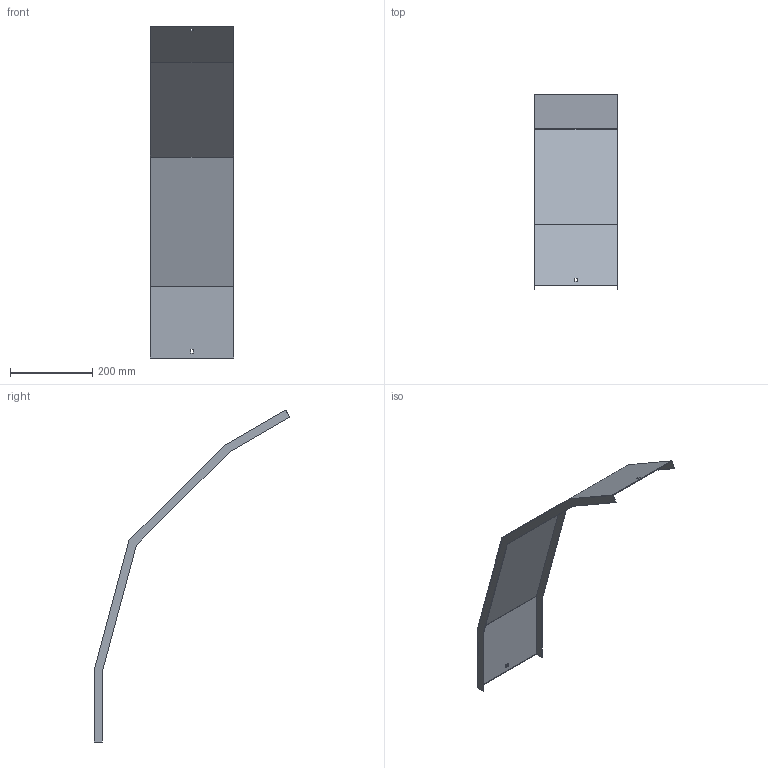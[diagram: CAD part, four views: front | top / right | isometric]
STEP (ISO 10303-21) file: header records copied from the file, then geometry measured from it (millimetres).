
FILE_DESCRIPTION (( 'STEP AP214' ), '1' );
FILE_NAME ('41N5F200.step', '2025-02-21T14:25:06', ( '' ), ( '' ), 'SwSTEP 2.0', 'SolidWorks 2023', '' );
FILE_SCHEMA (( 'AUTOMOTIVE_DESIGN' ));
Length unit declared in the file: millimetre
Products named in the file (1): 41N5F200
Bounding box: 203 x 475.35 x 806.02 mm (x, y, z)
Volume: 358678 mm3; surface area: 481986.7 mm2
Topology: 1 solids, 1 shells, 30 faces, 84 edges, 56 vertices
Faces by surface type: plane 30
Entity records: 979 total; most frequent: CARTESIAN_POINT 171, ORIENTED_EDGE 168, DIRECTION 146, VECTOR 84, EDGE_CURVE 84, LINE 84, VERTEX_POINT 56, EDGE_LOOP 34
